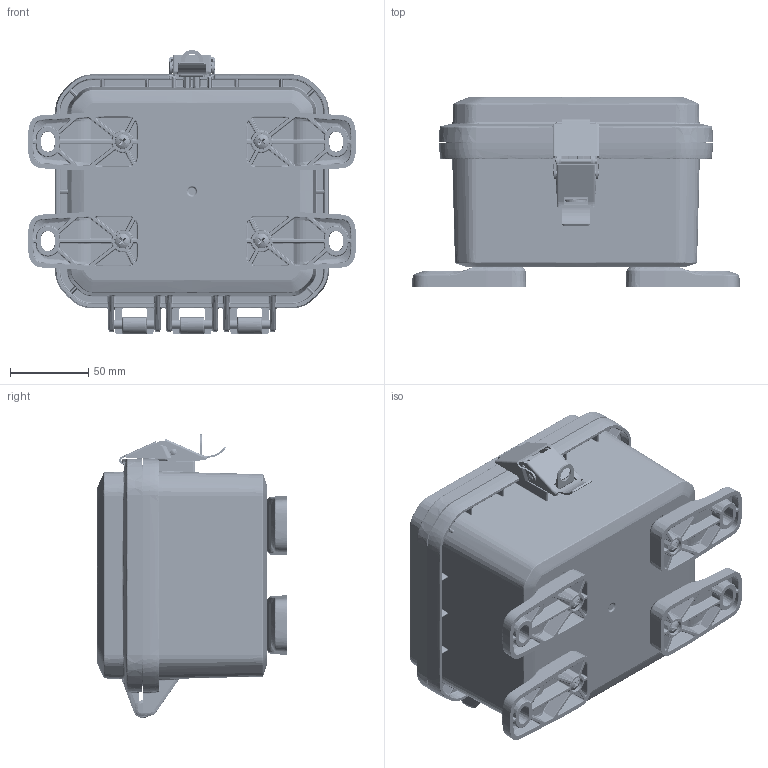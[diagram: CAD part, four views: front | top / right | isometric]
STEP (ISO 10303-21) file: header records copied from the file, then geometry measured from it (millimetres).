
FILE_DESCRIPTION (( 'STEP AP214' ), '1' );
FILE_NAME ('HP-060504-01.STEP', '2024-03-13T11:03:33', ( '' ), ( '' ), 'SwSTEP 2.0', 'SolidWorks 2024', '' );
FILE_SCHEMA (( 'AUTOMOTIVE_DESIGN' ));
Length unit declared in the file: inch
Products named in the file (16): ZH-01F_ZH-01F-01; HP-06051C_HP-06051C-01; ZH-01L2; HP-0605G; INSERTS-4; ZH-01L; ZH-01L5; LABEL-105; ZH-01L3; HP-0605xBI_HP-06053BI-01; SCREWS-046_SCREWS-046; ZH-01L1; HP-060504-01; ZH-01L4; HP-0605xB_HP-06053B-01; HP-06051CG_HP-06051CG-01
Assembly tree (24 placements, depth 3):
  HP-060504-01
    HP-0605xBI_HP-06053BI-01
      HP-0605xB_HP-06053B-01
      LABEL-105
      INSERTS-4  x4
    HP-06051CG_HP-06051CG-01
      HP-06051C_HP-06051C-01
      HP-0605G
    ZH-01L
      ZH-01L1
      ZH-01L2
      ZH-01L3
      ZH-01L4
      ZH-01L5
    ZH-01F_ZH-01F-01  x4
    SCREWS-046_SCREWS-046  x4
Bounding box: 209.55 x 121.41 x 181.57 mm (x, y, z)
Volume: 501157.3 mm3; surface area: 326963.9 mm2
Topology: 21 solids, 21 shells, 6838 faces, 15971 edges, 9086 vertices
Faces by surface type: bspline 2326, cylinder 1217, torus 1136, plane 1133, cone 854, sphere 172
Entity records: 204615 total; most frequent: CARTESIAN_POINT 112121, ORIENTED_EDGE 21436, DIRECTION 16774, EDGE_CURVE 10718, AXIS2_PLACEMENT_3D 6962, VERTEX_POINT 6167, EDGE_LOOP 4689, FACE_OUTER_BOUND 4612
